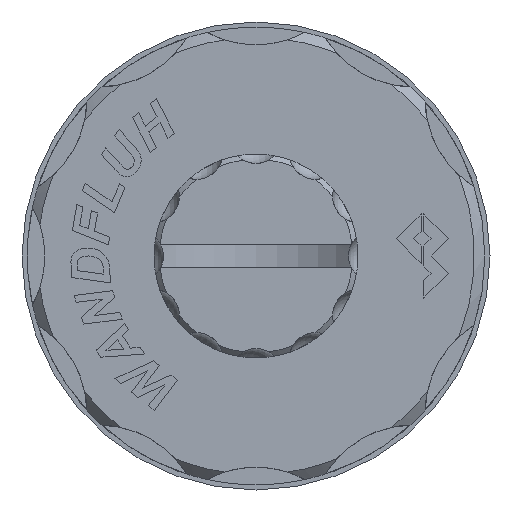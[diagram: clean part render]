
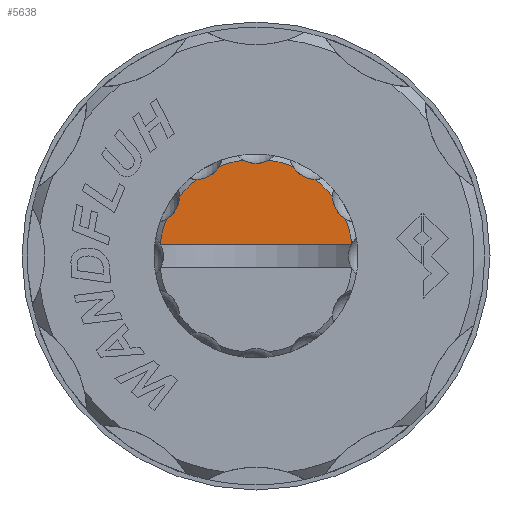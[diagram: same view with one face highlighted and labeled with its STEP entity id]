
A CAD part, left-side view. The second image highlights one B-rep face of the part: STEP entity #5638.
In plain terms, the highlighted planar face has unit normal (-1, 0, 0).
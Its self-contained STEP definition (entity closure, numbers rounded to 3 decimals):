
#179 = DIRECTION ( 'NONE',  ( 0., 1., 0. ) ) ;
#349 = CARTESIAN_POINT ( 'NONE',  ( -71.4, 9.91, 5.721 ) ) ;
#695 = CARTESIAN_POINT ( 'NONE',  ( -71.4, 8.599, 3.543 ) ) ;
#713 = DIRECTION ( 'NONE',  ( -1., 0., 0. ) ) ;
#769 = CARTESIAN_POINT ( 'NONE',  ( -71.4, 0., 0. ) ) ;
#807 = CARTESIAN_POINT ( 'NONE',  ( -71.4, -9.165, 1.131 ) ) ;
#1266 = CARTESIAN_POINT ( 'NONE',  ( -71.4, -7.367, 5.676 ) ) ;
#1389 = DIRECTION ( 'NONE',  ( 0., -1., 0. ) ) ;
#1428 = DIRECTION ( 'NONE',  ( 1., 0., 0. ) ) ;
#1595 = CIRCLE ( 'NONE', #8793, 2.543 ) ;
#1650 = VERTEX_POINT ( 'NONE', #3472 ) ;
#1808 = VECTOR ( 'NONE', #6298, 1000. ) ;
#1883 = VERTEX_POINT ( 'NONE', #3276 ) ;
#1931 = LINE ( 'NONE', #10243, #1808 ) ;
#1967 = CARTESIAN_POINT ( 'NONE',  ( -71.4, 9.8, 1.15 ) ) ;
#2217 = CARTESIAN_POINT ( 'NONE',  ( -71.4, -3.543, 8.599 ) ) ;
#2258 = DIRECTION ( 'NONE',  ( 0., -1., 0. ) ) ;
#2276 = CIRCLE ( 'NONE', #9893, 9.3 ) ;
#2302 = DIRECTION ( 'NONE',  ( -1., 0., 0. ) ) ;
#2353 = CARTESIAN_POINT ( 'NONE',  ( -71.4, 0., 0. ) ) ;
#2478 = CARTESIAN_POINT ( 'NONE',  ( -71.4, -1.231, 9.218 ) ) ;
#2578 = VERTEX_POINT ( 'NONE', #695 ) ;
#2691 = VECTOR ( 'NONE', #6086, 1000. ) ;
#2706 = CIRCLE ( 'NONE', #9986, 9.3 ) ;
#2933 = DIRECTION ( 'NONE',  ( 0., -1., 0. ) ) ;
#2935 = VERTEX_POINT ( 'NONE', #11122 ) ;
#3042 = LINE ( 'NONE', #1967, #4977 ) ;
#3133 = CARTESIAN_POINT ( 'NONE',  ( -71.4, 5.721, 9.91 ) ) ;
#3276 = CARTESIAN_POINT ( 'NONE',  ( -71.4, 7.367, 5.676 ) ) ;
#3284 = AXIS2_PLACEMENT_3D ( 'NONE', #769, #713, #9103 ) ;
#3287 = DIRECTION ( 'NONE',  ( 0., -1., 0. ) ) ;
#3337 = DIRECTION ( 'NONE',  ( 1., 0., 0. ) ) ;
#3385 = CARTESIAN_POINT ( 'NONE',  ( -71.4, 0., 11.443 ) ) ;
#3472 = CARTESIAN_POINT ( 'NONE',  ( -71.4, -5.676, 7.367 ) ) ;
#3474 = DIRECTION ( 'NONE',  ( 0., -1., 0. ) ) ;
#3801 = CIRCLE ( 'NONE', #9754, 9.3 ) ;
#3813 = CIRCLE ( 'NONE', #9717, 2.543 ) ;
#3938 = ORIENTED_EDGE ( 'NONE', *, *, #6414, .F. ) ;
#4017 = CARTESIAN_POINT ( 'NONE',  ( -71.4, -8.599, 3.543 ) ) ;
#4130 = CIRCLE ( 'NONE', #9840, 9.3 ) ;
#4136 = EDGE_LOOP ( 'NONE', ( #8452, #8699, #3938, #8711, #7339, #8838, #7451, #7462, #11218, #7727, #7764, #8920, #11176, #4707, #4991, #4262 ) ) ;
#4151 = CARTESIAN_POINT ( 'NONE',  ( -71.4, 1.231, 9.218 ) ) ;
#4262 = ORIENTED_EDGE ( 'NONE', *, *, #6512, .T. ) ;
#4280 = DIRECTION ( 'NONE',  ( 0., -1., 0. ) ) ;
#4291 = CIRCLE ( 'NONE', #9844, 2.543 ) ;
#4318 = CARTESIAN_POINT ( 'NONE',  ( -71.4, 11.443, 0. ) ) ;
#4342 = DIRECTION ( 'NONE',  ( 1., 0., 0. ) ) ;
#4359 = DIRECTION ( 'NONE',  ( -1., 0., 0. ) ) ;
#4394 = CARTESIAN_POINT ( 'NONE',  ( -71.4, 0., 0. ) ) ;
#4707 = ORIENTED_EDGE ( 'NONE', *, *, #6494, .T. ) ;
#4763 = FACE_OUTER_BOUND ( 'NONE', #4136, .T. ) ;
#4974 = CIRCLE ( 'NONE', #10001, 2.543 ) ;
#4977 = VECTOR ( 'NONE', #179, 1000. ) ;
#4984 = CIRCLE ( 'NONE', #9967, 2.543 ) ;
#4991 = ORIENTED_EDGE ( 'NONE', *, *, #6499, .T. ) ;
#4994 = LINE ( 'NONE', #11656, #2691 ) ;
#5007 = VERTEX_POINT ( 'NONE', #4017 ) ;
#5206 = DIRECTION ( 'NONE',  ( 0., -1., 0. ) ) ;
#5298 = DIRECTION ( 'NONE',  ( 1., 0., 0. ) ) ;
#5334 = CARTESIAN_POINT ( 'NONE',  ( -71.4, 0., 0. ) ) ;
#5335 = CARTESIAN_POINT ( 'NONE',  ( -71.4, -5.721, 9.91 ) ) ;
#5549 = CIRCLE ( 'NONE', #3284, 9.3 ) ;
#5606 = VERTEX_POINT ( 'NONE', #9945 ) ;
#5638 = ADVANCED_FACE ( 'NONE', ( #4763 ), #9503, .F. ) ;
#6086 = DIRECTION ( 'NONE',  ( 0., 0., -1. ) ) ;
#6171 = DIRECTION ( 'NONE',  ( 0., -1., 0. ) ) ;
#6280 = VERTEX_POINT ( 'NONE', #11426 ) ;
#6298 = DIRECTION ( 'NONE',  ( 0., 0., 1. ) ) ;
#6398 = EDGE_CURVE ( 'NONE', #11854, #11843, #3042, .T. ) ;
#6401 = EDGE_CURVE ( 'NONE', #11854, #10535, #4994, .T. ) ;
#6414 = EDGE_CURVE ( 'NONE', #9042, #10535, #4974, .T. ) ;
#6416 = EDGE_CURVE ( 'NONE', #9042, #5007, #2706, .T. ) ;
#6427 = EDGE_CURVE ( 'NONE', #5007, #10514, #4984, .T. ) ;
#6441 = EDGE_CURVE ( 'NONE', #10514, #1650, #2276, .T. ) ;
#6444 = EDGE_CURVE ( 'NONE', #1650, #10278, #10793, .T. ) ;
#6457 = EDGE_CURVE ( 'NONE', #10278, #10254, #12011, .T. ) ;
#6461 = EDGE_CURVE ( 'NONE', #10254, #10136, #4291, .T. ) ;
#6474 = EDGE_CURVE ( 'NONE', #6280, #1883, #4130, .T. ) ;
#6479 = EDGE_CURVE ( 'NONE', #1883, #2578, #10776, .T. ) ;
#6494 = EDGE_CURVE ( 'NONE', #2578, #8603, #3801, .T. ) ;
#6499 = EDGE_CURVE ( 'NONE', #8603, #2935, #3813, .T. ) ;
#6512 = EDGE_CURVE ( 'NONE', #2935, #11843, #1931, .T. ) ;
#6950 = EDGE_CURVE ( 'NONE', #5606, #6280, #1595, .T. ) ;
#6969 = DIRECTION ( 'NONE',  ( -1., 0., 0. ) ) ;
#7058 = CARTESIAN_POINT ( 'NONE',  ( -71.4, 0., 0. ) ) ;
#7339 = ORIENTED_EDGE ( 'NONE', *, *, #6427, .T. ) ;
#7451 = ORIENTED_EDGE ( 'NONE', *, *, #6444, .T. ) ;
#7462 = ORIENTED_EDGE ( 'NONE', *, *, #6457, .T. ) ;
#7704 = CARTESIAN_POINT ( 'NONE',  ( -71.4, 9.218, 1.231 ) ) ;
#7727 = ORIENTED_EDGE ( 'NONE', *, *, #10472, .T. ) ;
#7764 = ORIENTED_EDGE ( 'NONE', *, *, #6950, .T. ) ;
#8452 = ORIENTED_EDGE ( 'NONE', *, *, #6398, .F. ) ;
#8603 = VERTEX_POINT ( 'NONE', #7704 ) ;
#8699 = ORIENTED_EDGE ( 'NONE', *, *, #6401, .T. ) ;
#8711 = ORIENTED_EDGE ( 'NONE', *, *, #6416, .T. ) ;
#8793 = AXIS2_PLACEMENT_3D ( 'NONE', #3133, #4342, #2933 ) ;
#8838 = ORIENTED_EDGE ( 'NONE', *, *, #6441, .T. ) ;
#8920 = ORIENTED_EDGE ( 'NONE', *, *, #6474, .T. ) ;
#9042 = VERTEX_POINT ( 'NONE', #9441 ) ;
#9103 = DIRECTION ( 'NONE',  ( 0., -1., 0. ) ) ;
#9306 = DIRECTION ( 'NONE',  ( 0., -1., 0. ) ) ;
#9323 = DIRECTION ( 'NONE',  ( 1., 0., 0. ) ) ;
#9347 = CARTESIAN_POINT ( 'NONE',  ( -71.4, 9.8, 0. ) ) ;
#9441 = CARTESIAN_POINT ( 'NONE',  ( -71.4, -9.218, 1.231 ) ) ;
#9503 = PLANE ( 'NONE',  #11516 ) ;
#9717 = AXIS2_PLACEMENT_3D ( 'NONE', #4318, #11934, #11897 ) ;
#9754 = AXIS2_PLACEMENT_3D ( 'NONE', #5334, #11972, #3474 ) ;
#9776 = CARTESIAN_POINT ( 'NONE',  ( -71.4, -9.165, 1.15 ) ) ;
#9821 = AXIS2_PLACEMENT_3D ( 'NONE', #349, #1428, #1389 ) ;
#9840 = AXIS2_PLACEMENT_3D ( 'NONE', #2353, #2302, #2258 ) ;
#9844 = AXIS2_PLACEMENT_3D ( 'NONE', #3385, #3337, #3287 ) ;
#9858 = AXIS2_PLACEMENT_3D ( 'NONE', #4394, #4359, #4280 ) ;
#9875 = AXIS2_PLACEMENT_3D ( 'NONE', #5335, #5298, #5206 ) ;
#9893 = AXIS2_PLACEMENT_3D ( 'NONE', #7058, #6969, #6171 ) ;
#9935 = CARTESIAN_POINT ( 'NONE',  ( -71.4, 9.165, 1.15 ) ) ;
#9945 = CARTESIAN_POINT ( 'NONE',  ( -71.4, 3.543, 8.599 ) ) ;
#9961 = DIRECTION ( 'NONE',  ( 0., -1., 0. ) ) ;
#9967 = AXIS2_PLACEMENT_3D ( 'NONE', #10082, #10003, #9961 ) ;
#9986 = AXIS2_PLACEMENT_3D ( 'NONE', #10935, #10897, #10790 ) ;
#10001 = AXIS2_PLACEMENT_3D ( 'NONE', #11780, #11695, #11630 ) ;
#10003 = DIRECTION ( 'NONE',  ( 1., 0., 0. ) ) ;
#10082 = CARTESIAN_POINT ( 'NONE',  ( -71.4, -9.91, 5.721 ) ) ;
#10136 = VERTEX_POINT ( 'NONE', #4151 ) ;
#10243 = CARTESIAN_POINT ( 'NONE',  ( -71.4, 9.165, 1.15 ) ) ;
#10254 = VERTEX_POINT ( 'NONE', #2478 ) ;
#10278 = VERTEX_POINT ( 'NONE', #2217 ) ;
#10472 = EDGE_CURVE ( 'NONE', #10136, #5606, #5549, .T. ) ;
#10514 = VERTEX_POINT ( 'NONE', #1266 ) ;
#10535 = VERTEX_POINT ( 'NONE', #807 ) ;
#10776 = CIRCLE ( 'NONE', #9821, 2.543 ) ;
#10790 = DIRECTION ( 'NONE',  ( 0., -1., 0. ) ) ;
#10793 = CIRCLE ( 'NONE', #9875, 2.543 ) ;
#10897 = DIRECTION ( 'NONE',  ( -1., 0., 0. ) ) ;
#10935 = CARTESIAN_POINT ( 'NONE',  ( -71.4, 0., 0. ) ) ;
#11122 = CARTESIAN_POINT ( 'NONE',  ( -71.4, 9.165, 1.131 ) ) ;
#11176 = ORIENTED_EDGE ( 'NONE', *, *, #6479, .T. ) ;
#11218 = ORIENTED_EDGE ( 'NONE', *, *, #6461, .T. ) ;
#11426 = CARTESIAN_POINT ( 'NONE',  ( -71.4, 5.676, 7.367 ) ) ;
#11516 = AXIS2_PLACEMENT_3D ( 'NONE', #9347, #9323, #9306 ) ;
#11630 = DIRECTION ( 'NONE',  ( 0., 1., 0. ) ) ;
#11656 = CARTESIAN_POINT ( 'NONE',  ( -71.4, -9.165, 1.15 ) ) ;
#11695 = DIRECTION ( 'NONE',  ( -1., 0., 0. ) ) ;
#11780 = CARTESIAN_POINT ( 'NONE',  ( -71.4, -11.443, 0. ) ) ;
#11843 = VERTEX_POINT ( 'NONE', #9935 ) ;
#11854 = VERTEX_POINT ( 'NONE', #9776 ) ;
#11897 = DIRECTION ( 'NONE',  ( 0., -1., 0. ) ) ;
#11934 = DIRECTION ( 'NONE',  ( 1., 0., 0. ) ) ;
#11972 = DIRECTION ( 'NONE',  ( -1., 0., 0. ) ) ;
#12011 = CIRCLE ( 'NONE', #9858, 9.3 ) ;
